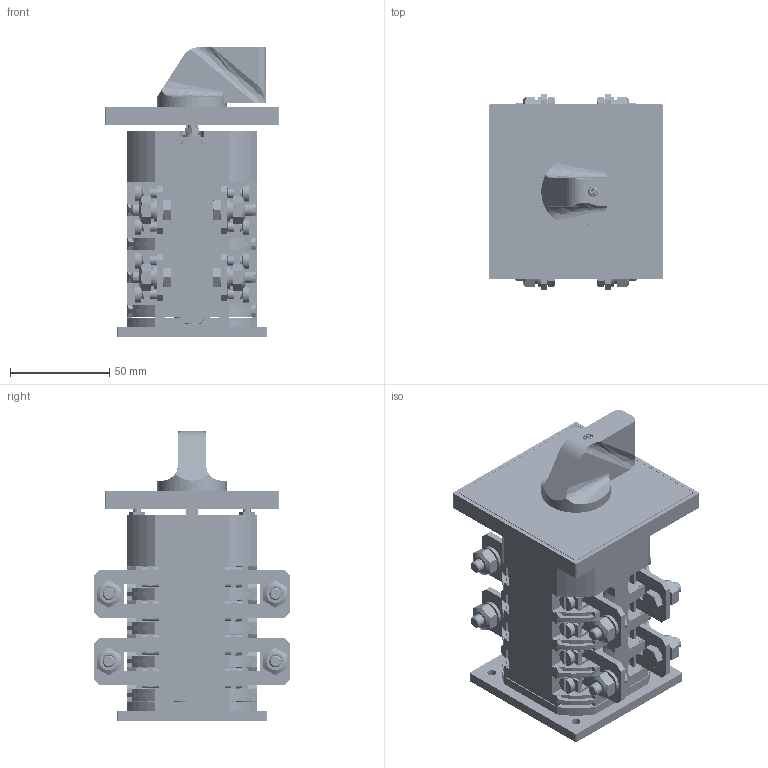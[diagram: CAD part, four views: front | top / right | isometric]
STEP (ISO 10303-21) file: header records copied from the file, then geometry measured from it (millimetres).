
FILE_DESCRIPTION (( 'STEP AP214' ), '1' );
FILE_NAME ('4G100-XXXX-OU-R212,R214,S24 4ê.STEP', '2023-02-15T11:22:34', ( '' ), ( '' ), 'SwSTEP 2.0', 'SolidWorks 2018', '' );
FILE_SCHEMA (( 'AUTOMOTIVE_DESIGN' ));
Length unit declared in the file: millimetre
Products named in the file (1): 4G100-XXXX-OU-R212,R214,S24 4ê
Bounding box: 88 x 99 x 146.12 mm (x, y, z)
Volume: 400410.6 mm3; surface area: 229118.5 mm2
Topology: 127 solids, 127 shells, 5384 faces, 13434 edges, 8418 vertices
Faces by surface type: plane 3234, cylinder 1658, cone 262, torus 179, bspline 51
Entity records: 237471 total; most frequent: CARTESIAN_POINT 47316, DIRECTION 27249, ORIENTED_EDGE 26862, EDGE_CURVE 13431, AXIS2_PLACEMENT_3D 9296, LINE 8657, VECTOR 8657, VERTEX_POINT 8418
